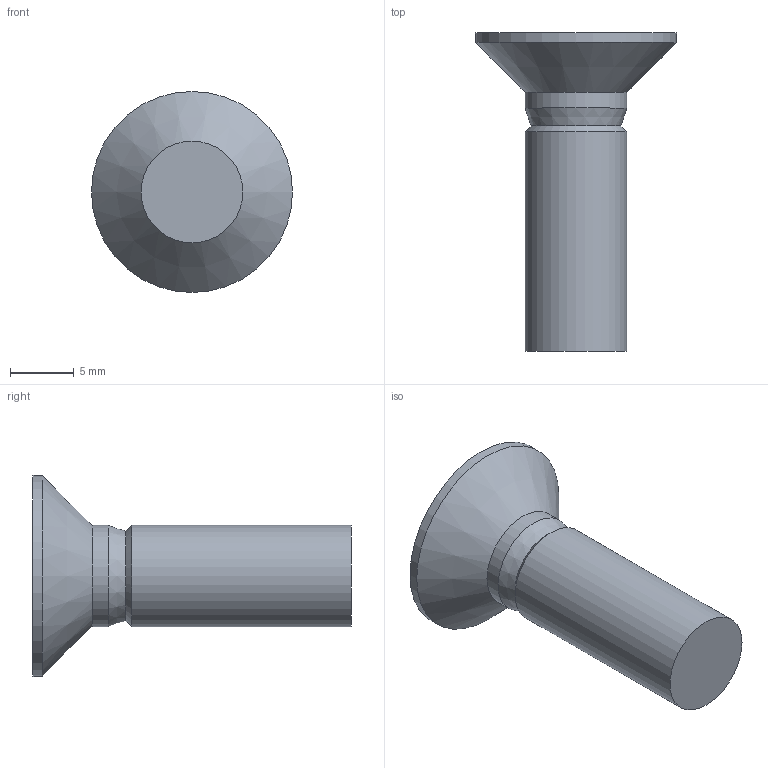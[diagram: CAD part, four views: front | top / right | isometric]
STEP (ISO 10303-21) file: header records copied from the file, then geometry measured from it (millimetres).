
FILE_DESCRIPTION(/* description */ (''),/* implementation_level */ '2;1');
FILE_NAME(/* name */ 'C:\Users\unitec\Documents\Inventor\HP\ボルト\JIS B 1111 十字穴付き皿小ねじ\IPT\CHWCSS-M8\CHWCSS-M8-25.stp',/* time_stamp */ '2016-12-24T16:30:27+09:00',/* author */ ('unitec'),/* organization */ (''),/* preprocessor_version */ 'ST-DEVELOPER v15.2',/* originating_system */ 'Autodesk Inventor 2014',/* authorisation */ '');
FILE_SCHEMA (('AUTOMOTIVE_DESIGN { 1 0 10303 214 3 1 1 }'));
Length unit declared in the file: millimetre
Products named in the file (1): CHWCSS-M8-25
Bounding box: 15.8 x 25 x 15.8 mm (x, y, z)
Volume: 1549.3 mm3; surface area: 1056.9 mm2
Topology: 1 solids, 1 shells, 33 faces, 77 edges, 43 vertices
Faces by surface type: plane 23, bspline 4, cylinder 3, cone 3
Full cylindrical faces by diameter (mm): 8 x2, 15.8 x1
Entity records: 1057 total; most frequent: CARTESIAN_POINT 400, ORIENTED_EDGE 134, DIRECTION 106, EDGE_CURVE 67, VERTEX_POINT 43, EDGE_LOOP 40, AXIS2_PLACEMENT_3D 37, ADVANCED_FACE 33
